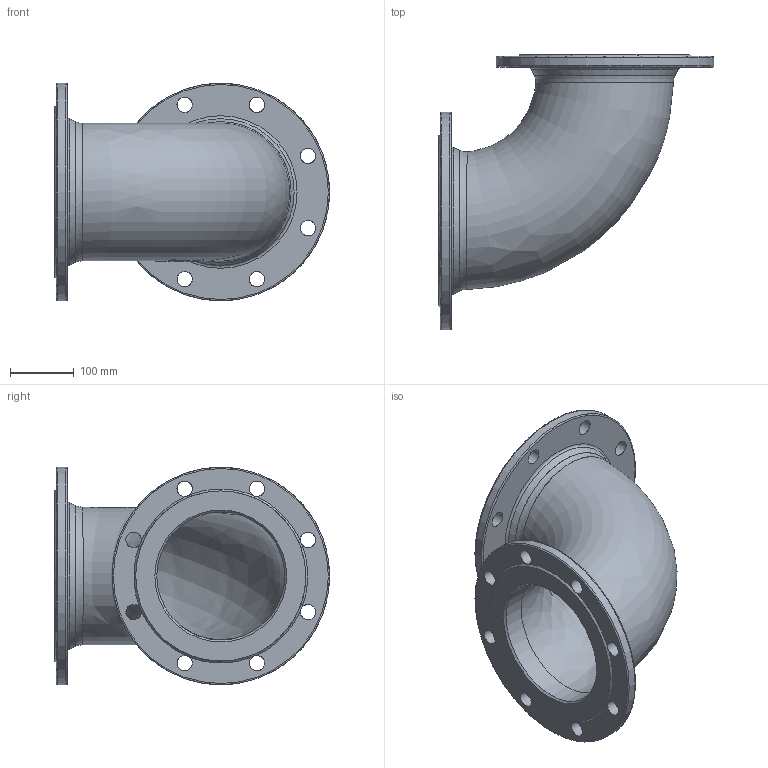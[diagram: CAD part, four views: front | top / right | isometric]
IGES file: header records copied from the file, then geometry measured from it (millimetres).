
Start section: SolidWorks IGES file using analytic representation for surfaces
Global section: file name: \\avksan2\techshare\PBM outline export from Enovia\O_712_0610_DN200_0X_REV01.igs; native system: SolidWorks 2019; preprocessor: SolidWorks 2019; author: pbm; date: 211119.105701; units: millimetre
Bounding box: 430 x 430 x 340 mm (x, y, z)
Surface area: 783131.4 mm2 (no closed solid volume)
Topology: 0 solids, 0 shells, 83 faces, 459 edges, 423 vertices
Faces by surface type: bspline 43, revolution 40
